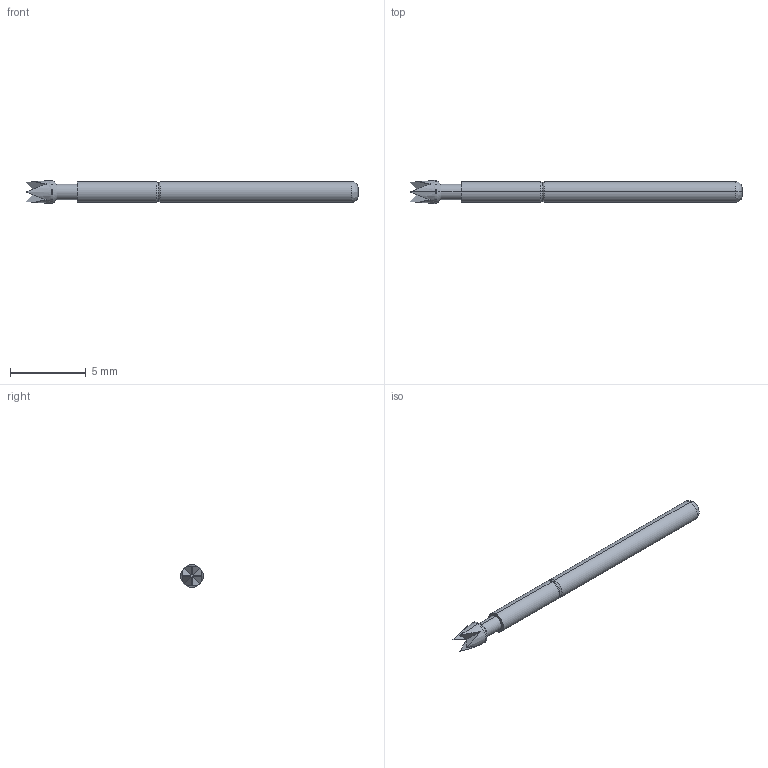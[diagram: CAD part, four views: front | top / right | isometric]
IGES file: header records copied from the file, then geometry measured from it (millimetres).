
Start section: SolidWorks IGES file using analytic representation for surfaces
Global section: file name: Z:\probe solid model mockups\Solidworks models\IGES Files\EPA-2\EPA-2L RECD.IGS; native system: SolidWorks 2006 by SolidWorks Corporation; preprocessor: SolidWorks 2006 by SolidWorks Corporation; author: tsakatani; date: 071220.162340; units: inch
Bounding box: 21.92 x 1.52 x 1.52 mm (x, y, z)
Surface area: 96.3 mm2 (no closed solid volume)
Topology: 0 solids, 0 shells, 28 faces, 174 edges, 174 vertices
Faces by surface type: bspline 16, revolution 12
